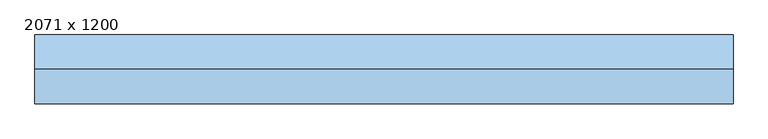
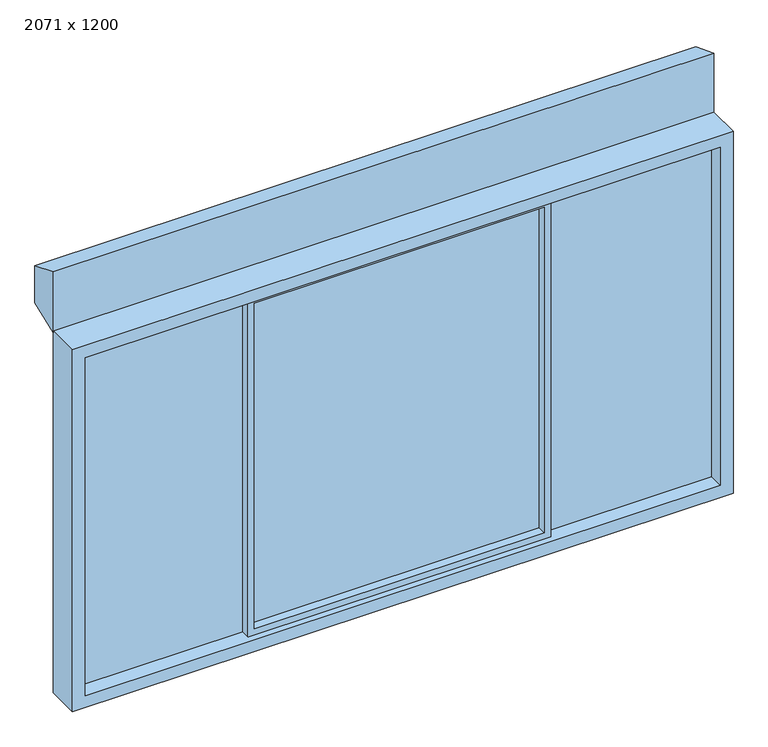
"""IFC4 building model written with IfcOpenShell, lengths in millimetres: window geometry, Window_Zeppelin-Rental-GmbH_Triple : 2071 x 1200."""

from ifc_helpers import new_model, si_unit, frame, origin, place, context, project, spatial, polyline, outline, extrude, source, transform, mapped, element, save


def window_2071_x_1200_fca12dad(model_context):
    return source(origin(), model_context, "Body", "SweptSolid", [
        extrude(outline(polyline([(454.5, -5.0), (-454.5, -5.0), (-454.5, 5.0), (454.5, 5.0), (454.5, -5.0)])), frame((0.0, 0.0, 1060.0), z_axis=(0.0, 0.0, 1.0), x_axis=(1.0, 0.0, 0.0)), (0.0, 0.0, 1.0), 1080.0),
        extrude(outline(polyline([(474.5, -5.0), (474.5, 5.0), (995.5, 5.0), (995.5, -5.0), (474.5, -5.0)])), frame((0.0, 0.0, 1040.0), z_axis=(0.0, 0.0, 1.0), x_axis=(1.0, 0.0, 0.0)), (0.0, 0.0, 1.0), 1120.0),
        extrude(outline(polyline([(1040.0, 474.5), (2160.0, 474.5), (2160.0, -474.5), (1040.0, -474.5), (1040.0, 474.5)]), holes=[polyline([(2140.0, 454.5), (1060.0, 454.5), (1060.0, -454.5), (2140.0, -454.5), (2140.0, 454.5)])]), frame((0.0, -33.165923, 0.0), z_axis=(0.0, 1.0, 0.0), x_axis=(0.0, 0.0, 1.0)), (0.0, 0.0, 1.0), 64.9965317),
        extrude(outline(polyline([(151.3073429, 2355.8213991), (151.3073429, 2232.8983177), (51.3323429, 2193.529924), (51.3323429, 2395.1897929), (151.3073429, 2355.8213991)])), frame((-1035.5, 0.0, 0.0), z_axis=(1.0, 0.0, 0.0), x_axis=(0.0, 1.0, 0.0)), (0.0, 0.0, 1.0), 2071.0),
        extrude(outline(polyline([(-474.5, -5.0), (-995.5, -5.0), (-995.5, 5.0), (-474.5, 5.0), (-474.5, -5.0)])), frame((0.0, 0.0, 1040.0), z_axis=(0.0, 0.0, 1.0), x_axis=(1.0, 0.0, 0.0)), (0.0, 0.0, 1.0), 1120.0),
        extrude(outline(polyline([(1000.0, 1035.5), (2200.0, 1035.5), (2200.0, -1035.5), (1000.0, -1035.5), (1000.0, 1035.5)]), holes=[polyline([(2160.0, 995.5), (1040.0, 995.5), (1040.0, -995.5), (2160.0, -995.5), (2160.0, 995.5)])]), frame((0.0, -52.6676571, 0.0), z_axis=(0.0, 1.0, 0.0), x_axis=(0.0, 0.0, 1.0)), (0.0, 0.0, 1.0), 104.0),
    ])


if __name__ == "__main__":
    model = new_model("IFC4")
    model_context = context("Model", 3, world=origin())
    ifc_project = project(units=[si_unit("LENGTHUNIT", "METRE", prefix="MILLI")], contexts=[model_context])
    site = spatial("IfcSite", under=ifc_project)
    building = spatial("IfcBuilding", under=site)
    placement = place(None, origin())
    window_2071_x_1200_shape = window_2071_x_1200_fca12dad(model_context)
    element("IfcWindow", 1, ObjectType="Window_Zeppelin-Rental-GmbH_Triple : 2071 x 1200", at=placement, inside=building, context=model_context, shape_type="MappedRepresentation", body=[
        mapped(window_2071_x_1200_shape, transform((0.0, 0.0, 0.0), x_axis=(1.0, 0.0, 0.0), y_axis=(0.0, 1.0, 0.0), z_axis=(0.0, 0.0, 1.0))),
    ])
    save(model, "model.ifc")
